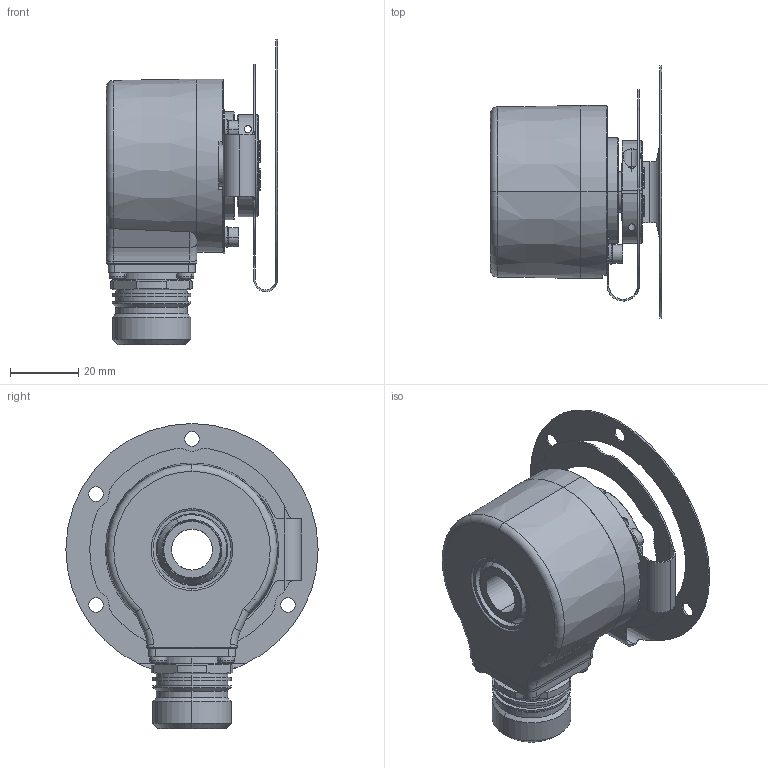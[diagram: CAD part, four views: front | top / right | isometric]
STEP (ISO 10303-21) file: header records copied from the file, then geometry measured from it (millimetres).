
FILE_DESCRIPTION (( 'STEP AP214' ), '1' );
FILE_NAME ('5020.85X4.XXXX.STEP', '2007-06-18T09:50:20', ( 'DanneckerS' ), ( ' ' ), 'SwSTEP 2.0', 'SolidWorks 2007', '' );
FILE_SCHEMA (( 'AUTOMOTIVE_DESIGN' ));
Length unit declared in the file: millimetre
Products named in the file (1): 5020.85X4.XXXX
Bounding box: 50.2 x 74 x 89.5 mm (x, y, z)
Surface area: 26442 mm2 (no closed solid volume)
Topology: 0 solids, 45 shells, 469 faces, 1365 edges, 907 vertices
Faces by surface type: cylinder 200, plane 140, cone 55, torus 38, sphere 32, bspline 4
Entity records: 21156 total; most frequent: CARTESIAN_POINT 3393, DIRECTION 2890, ORIENTED_EDGE 2354, EDGE_CURVE 1337, AXIS2_PLACEMENT_3D 1192, VERTEX_POINT 907, CIRCLE 726, EDGE_LOOP 543
